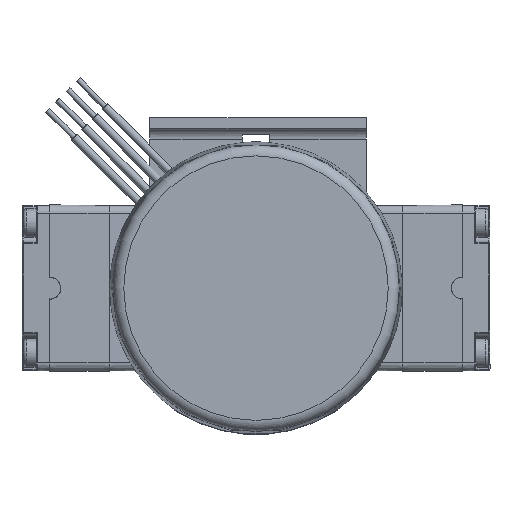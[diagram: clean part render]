
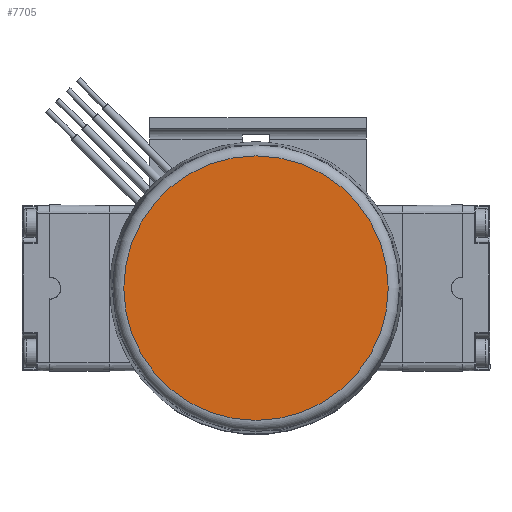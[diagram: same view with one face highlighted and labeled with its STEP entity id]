
A CAD part, front view. The second image highlights one B-rep face of the part: STEP entity #7705.
In plain terms, the highlighted planar face has unit normal (0, -1, 0).
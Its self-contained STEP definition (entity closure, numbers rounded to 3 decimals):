
#2479 = ORIENTED_EDGE ( 'NONE', *, *, #42722, .F. ) ;
#7705 = ADVANCED_FACE ( 'NONE', ( #34018 ), #8236, .F. ) ;
#8236 = PLANE ( 'NONE',  #22083 ) ;
#10612 = AXIS2_PLACEMENT_3D ( 'NONE', #17898, #46453, #21972 ) ;
#16476 = DIRECTION ( 'NONE',  ( 0., 1., 0. ) ) ;
#17898 = CARTESIAN_POINT ( 'NONE',  ( 0., -45.75, 0. ) ) ;
#21972 = DIRECTION ( 'NONE',  ( -1., 0., 0. ) ) ;
#22083 = AXIS2_PLACEMENT_3D ( 'NONE', #53057, #16476, #45011 ) ;
#34018 = FACE_OUTER_BOUND ( 'NONE', #44588, .T. ) ;
#40054 = CIRCLE ( 'NONE', #10612, 24.419 ) ;
#42722 = EDGE_CURVE ( 'NONE', #44170, #44170, #40054, .T. ) ;
#44095 = CARTESIAN_POINT ( 'NONE',  ( -24.419, -45.75, 0. ) ) ;
#44170 = VERTEX_POINT ( 'NONE', #44095 ) ;
#44588 = EDGE_LOOP ( 'NONE', ( #2479 ) ) ;
#45011 = DIRECTION ( 'NONE',  ( -1., 0., 0. ) ) ;
#46453 = DIRECTION ( 'NONE',  ( 0., 1., 0. ) ) ;
#53057 = CARTESIAN_POINT ( 'NONE',  ( 0., -45.75, 0. ) ) ;
